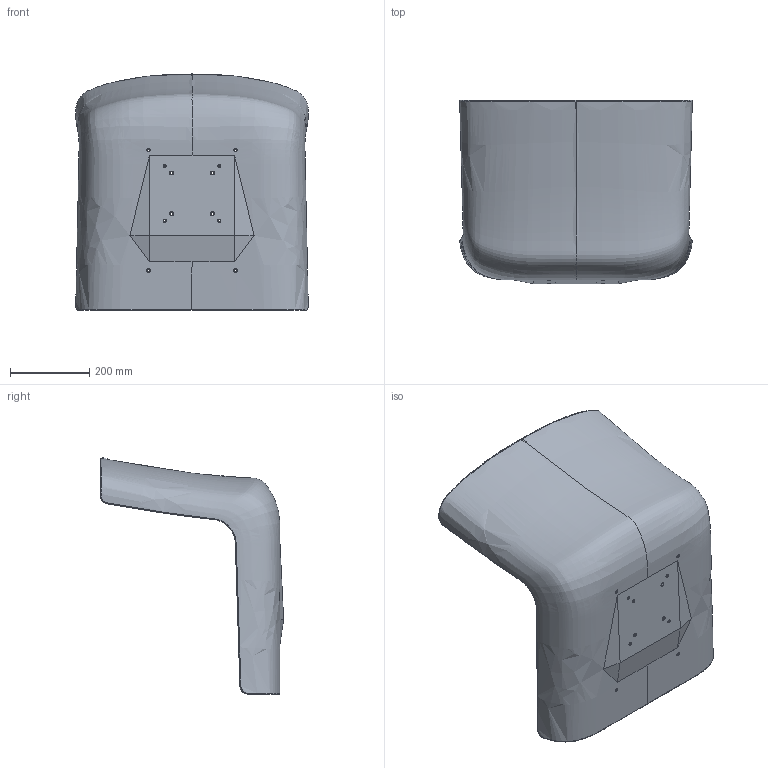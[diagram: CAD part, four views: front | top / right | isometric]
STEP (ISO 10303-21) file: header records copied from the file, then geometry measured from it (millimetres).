
FILE_DESCRIPTION (( 'STEP AP214' ), '1' );
FILE_NAME ('91046323_4_150626.STEP', '2026-06-15T08:15:54', ( '' ), ( '' ), 'SwSTEP 2.0', 'SolidWorks 2023', '' );
FILE_SCHEMA (( 'AUTOMOTIVE_DESIGN' ));
Length unit declared in the file: millimetre
Products named in the file (1): 91046323_4_150626
Bounding box: 587.9 x 462.99 x 596.86 mm (x, y, z)
Volume: 9235870.3 mm3; surface area: 1391812.3 mm2
Topology: 13 solids, 13 shells, 3068 faces, 6786 edges, 3726 vertices
Faces by surface type: plane 1768, bspline 664, cylinder 545, sphere 91
Entity records: 442728 total; most frequent: CARTESIAN_POINT 379459, ORIENTED_EDGE 13496, DIRECTION 12606, EDGE_CURVE 6748, AXIS2_PLACEMENT_3D 4727, VERTEX_POINT 3718, VECTOR 3152, LINE 3152
